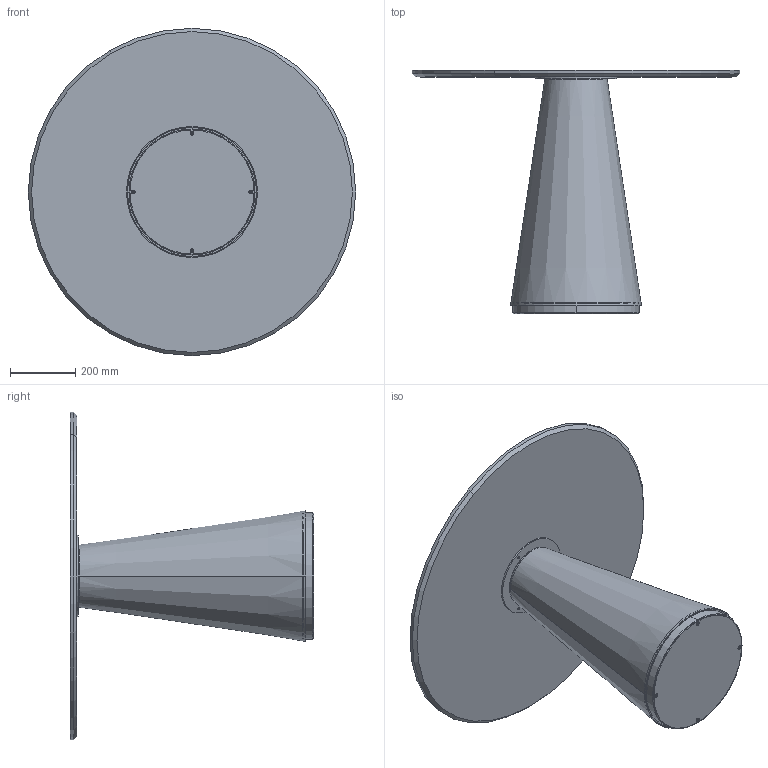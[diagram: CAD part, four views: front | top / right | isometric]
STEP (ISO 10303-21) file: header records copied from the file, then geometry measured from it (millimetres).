
FILE_DESCRIPTION (( 'STEP AP203' ), '1' );
FILE_NAME ('TE30M.STEP', '2024-08-08T07:47:27', ( '' ), ( '' ), 'SwSTEP 2.0', 'SolidWorks 2022', '' );
FILE_SCHEMA (( 'CONFIG_CONTROL_DESIGN' ));
Length unit declared in the file: millimetre
Products named in the file (8): TED000000TCONO-00-TED CONO; TED000000BAS_01-00-TED PIASTRA; M0X-00- D. piani marmo_D.1000; M6xXXmm_HEX_M6x40mm HEX; TED000000PIA-00-TED PIASTRA SOPRA; M6xXXmm_HEX_M6x20mm HEX; TE30M; Assieme BASE TED
Assembly tree (13 placements, depth 3):
  TE30M
    M0X-00- D. piani marmo_D.1000
    Assieme BASE TED
      TED000000BAS_01-00-TED PIASTRA
      TED000000PIA-00-TED PIASTRA SOPRA
      TED000000TCONO-00-TED CONO
      M6xXXmm_HEX_M6x20mm HEX  x4
      M6xXXmm_HEX_M6x40mm HEX  x4
Bounding box: 1000 x 743.5 x 1000 mm (x, y, z)
Volume: 16934960.8 mm3; surface area: 3421468.2 mm2
Topology: 14 solids, 14 shells, 376 faces, 795 edges, 436 vertices
Faces by surface type: plane 175, cylinder 111, cone 70, torus 20
Entity records: 5845 total; most frequent: DIRECTION 965, CARTESIAN_POINT 790, ORIENTED_EDGE 750, AXIS2_PLACEMENT_3D 401, EDGE_CURVE 375, VERTEX_POINT 226, EDGE_LOOP 223, CIRCLE 212
